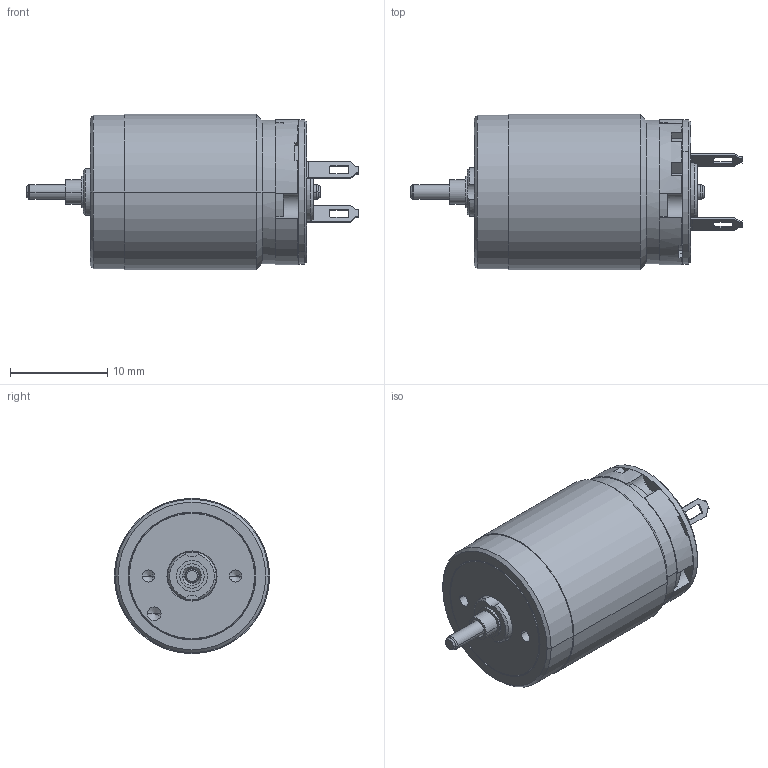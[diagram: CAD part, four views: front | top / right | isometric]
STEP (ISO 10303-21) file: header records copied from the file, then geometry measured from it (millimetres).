
FILE_DESCRIPTION((''),'2;1');
FILE_NAME('320173_RE16_EBCLL_2W_SL_1WE','2016-10-07T',('mmagvisi'),(''),'CREO PARAMETRIC BY PTC INC, 2016050','CREO PARAMETRIC BY PTC INC, 2016050','');
FILE_SCHEMA(('CONFIG_CONTROL_DESIGN'));
Length unit declared in the file: millimetre
Products named in the file (1): 320173_RE16_EBCLL_2W_SL_1WE
Bounding box: 34.2 x 16 x 16 mm (x, y, z)
Volume: 4322.9 mm3; surface area: 1816.8 mm2
Topology: 1 solids, 4 shells, 268 faces, 660 edges, 417 vertices
Faces by surface type: plane 121, cylinder 92, cone 46, torus 9
Entity records: 10449 total; most frequent: CARTESIAN_POINT 1830, DIRECTION 1436, ORIENTED_EDGE 1308, PRESENTATION_STYLE_ASSIGNMENT 662, STYLED_ITEM 655, CURVE_STYLE 654, EDGE_CURVE 654, AXIS2_PLACEMENT_3D 553
